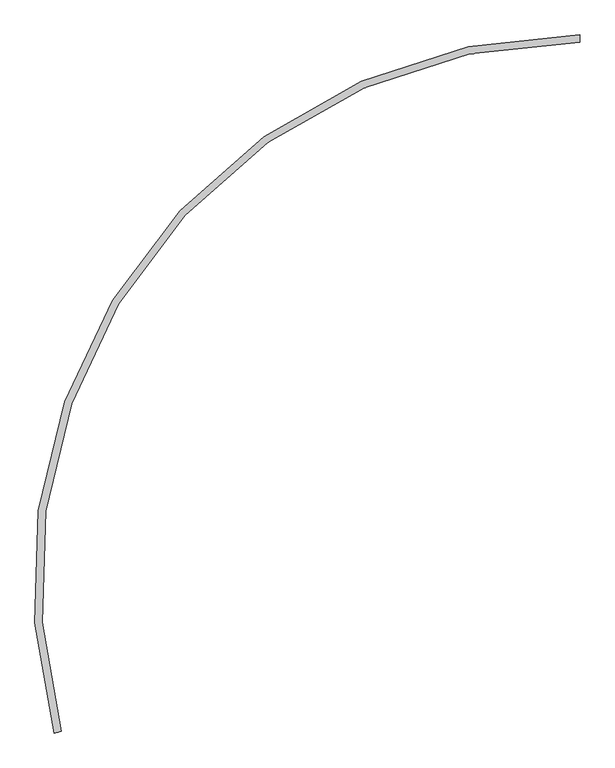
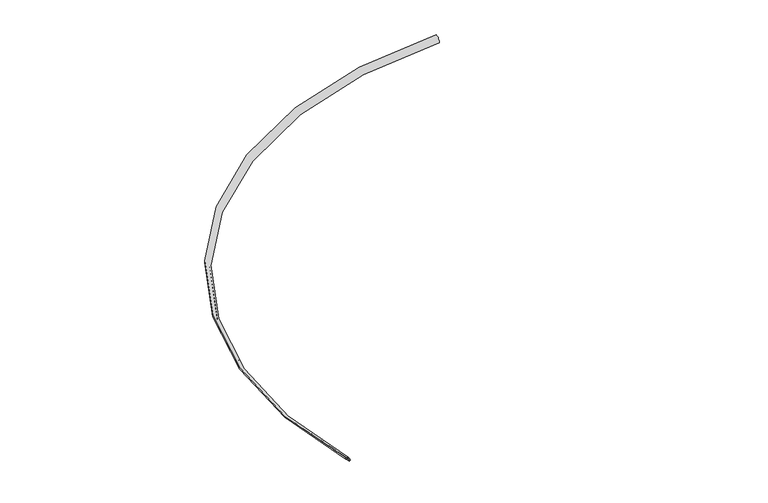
"""IFC4 building model written with IfcOpenShell, lengths in millimetres: proxy geometry, insitu_138 Marino Anti-Slip PTo : insitu_138 Marino Anti-Slip PTo."""

from ifc_helpers import new_model, si_unit, point, frame, origin, place, context, project, spatial, circle_curve, ellipse_curve, trimmed, source, transform, mapped, element, save
from ifc_brep_helpers import plane_surface, cylinder_surface, revolved_surface, advanced_brep


def generic_models_d5cd031a(model_context):
    return source(origin(), model_context, "Body", "AdvancedBrep", [
        advanced_brep(
        [(35944.9857445, -11116.534635, -3209.9734114), (35944.9857445, -11116.534635, -3200.0), (35945.1608257, -11156.5342519, -3240.0), (35945.1171718, -11146.560936, -3240.0), (33021.7433804, -14997.3626737, -3209.9734114), (33050.6395991, -14989.2015118, -3240.0), (33060.2375552, -14986.4907601, -3240.0), (33021.7433804, -14997.3626737, -3200.0)],
        [
            (0, 1),
            (1, 2, circle_curve(frame((35944.9857445, -11116.534635, -3240.0), z_axis=(0.999990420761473, 0.004377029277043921, 0.0), x_axis=(0.004377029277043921, -0.999990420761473, 0.0)), 40.0)),
            (2, 3),
            (3, 0, circle_curve(frame((35944.985764, -11116.5390803, -3239.9955547), z_axis=(-0.999990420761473, -0.004377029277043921, 0.0), x_axis=(0.004377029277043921, -0.999990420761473, 0.0)), 30.0221435)),
            (4, 5, circle_curve(frame((33021.7476584, -14997.3614655, -3239.9955547), z_axis=(-0.27179784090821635, 0.9623543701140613, 0.0), x_axis=(0.9623543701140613, 0.27179784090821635, 0.0)), 30.0221435)),
            (5, 6),
            (6, 7, circle_curve(frame((33021.7433804, -14997.3626737, -3240.0), z_axis=(0.27179784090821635, -0.9623543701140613, 0.0), x_axis=(0.9623543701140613, 0.27179784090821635, 0.0)), 40.0)),
            (7, 4),
            (7, 1, circle_curve(frame((35958.3421329, -14167.9787946, -3200.0), z_axis=(0.0, 0.0, -1.0), x_axis=(-0.00437702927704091, 0.999990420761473, 0.0)), 3051.4733904)),
            (0, 4, circle_curve(frame((35958.3421329, -14167.9787946, -3209.9734114), z_axis=(0.0, 0.0, 1.0), x_axis=(-0.00437702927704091, 0.999990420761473, 0.0)), 3051.4733904)),
            (6, 2, circle_curve(frame((35958.3421329, -14167.9787946, -3240.0), z_axis=(0.0, 0.0, -1.0), x_axis=(-0.00437702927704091, 0.999990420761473, 0.0)), 3011.4733904)),
            (5, 3, circle_curve(frame((35958.3421329, -14167.9787946, -3240.0), z_axis=(0.0, 0.0, -1.0), x_axis=(-0.00437702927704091, 0.999990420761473, 0.0)), 3021.4468018)),
        ],
        [
            plane_surface(frame((35945.1608257, -11156.5342519, -3240.0), z_axis=(0.999990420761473, 0.004377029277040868, 0.0), x_axis=(0.0, 0.0, 1.0))),
            plane_surface(frame((33060.2375552, -14986.4907601, -3240.0), z_axis=(0.2717978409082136, -0.9623543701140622, 0.0), x_axis=(0.0, 0.0, 1.0))),
            cylinder_surface(frame((35958.3421329, -14167.9787946, -3240.0), z_axis=(0.0, 0.0, 1.0), x_axis=(-0.00437702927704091, 0.999990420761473, 0.0)), 3051.4733904),
            revolved_surface(trimmed(ellipse_curve(frame((35944.9857445, -11116.534635, -3240.0), z_axis=(0.999990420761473, 0.004377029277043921, 0.0), x_axis=(0.004377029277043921, -0.999990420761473, 0.0)), 40.0, 40.0), [point((35944.9857445, -11116.534635, -3200.0))], [point((35945.1608257, -11156.5342519, -3240.0))], True, "CARTESIAN"), (35958.3421329, -14167.9787946, -3240.0), (0.0, 0.0, 1.0)),
            plane_surface(frame((35958.3421329, -14167.9787946, -3240.0), z_axis=(0.0, 0.0, -1.0), x_axis=(-0.00437702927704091, 0.999990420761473, 0.0))),
            revolved_surface(trimmed(ellipse_curve(frame((35944.985764, -11116.5390803, -3239.9955547), z_axis=(-0.999990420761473, -0.004377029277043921, 0.0), x_axis=(0.004377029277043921, -0.999990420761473, 0.0)), 30.0221435, 30.0221435), [point((35945.1171718, -11146.560936, -3240.0))], [point((35944.9857445, -11116.534635, -3209.9734114))], True, "CARTESIAN"), (35958.3421329, -14167.9787946, -3240.0), (0.0, 0.0, 1.0)),
        ],
        [
            (0, [[1, 2, 3, 4]]),
            (1, [[5, 6, 7, 8]]),
            (2, [[9, -1, 10, -8]]),
            (3, [[11, -2, -9, -7]]),
            (4, [[12, -3, -11, -6]]),
            (5, [[-10, -4, -12, -5]]),
        ],
    ),
    ])


if __name__ == "__main__":
    model = new_model("IFC4")
    model_context = context("Model", 3, world=origin())
    ifc_project = project(units=[si_unit("LENGTHUNIT", "METRE", prefix="MILLI")], contexts=[model_context])
    site = spatial("IfcSite", under=ifc_project)
    building = spatial("IfcBuilding", under=site)
    placement = place(None, origin())
    generic_models_shape = generic_models_d5cd031a(model_context)
    element("IfcBuildingElementProxy", 1, Name="insitu_138 Marino Anti-Slip PTo : insitu_138 Marino Anti-Slip PTo", ObjectType="insitu_138 Marino Anti-Slip PTo : insitu_138 Marino Anti-Slip PTo", at=placement, inside=building, context=model_context, shape_type="MappedRepresentation", body=[
        mapped(generic_models_shape, transform((0.0, 0.0, 0.0), x_axis=(1.0, 0.0, 0.0), y_axis=(0.0, 1.0, 0.0), z_axis=(0.0, 0.0, 1.0))),
    ])
    save(model, "model.ifc")
